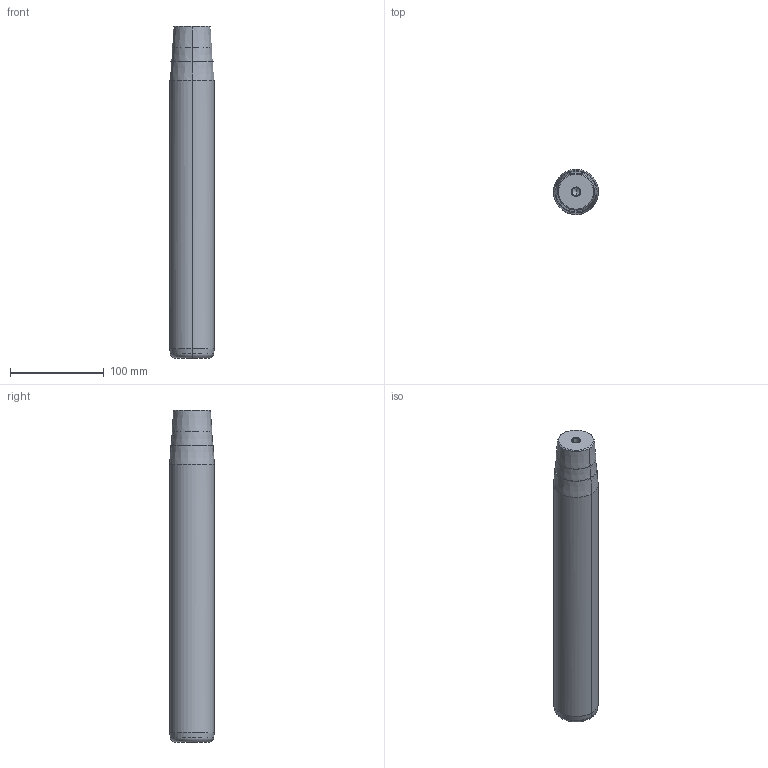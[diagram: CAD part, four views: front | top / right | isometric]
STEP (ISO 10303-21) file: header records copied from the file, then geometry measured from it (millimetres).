
FILE_DESCRIPTION(('CATIA V5 STEP Exchange'),'2;1');
FILE_NAME('C:\Users\Utente\Desktop\IO LAVORO\3D X SITO CF\X SITO\722\722-48x315x355.stp','2021-01-08T14:59:57+00:00',('none'),('none'),'CATIA Version 5 Release 20 GA (IN-10)','CATIA V5 STEP AP203','none');
FILE_SCHEMA(('CONFIG_CONTROL_DESIGN'));
Length unit declared in the file: millimetre
Products named in the file (1): 722-48x315x355
Bounding box: 48 x 48 x 355 mm (x, y, z)
Volume: 619565 mm3; surface area: 56667.5 mm2
Topology: 1 solids, 1 shells, 32 faces, 98 edges, 66 vertices
Faces by surface type: cone 22, cylinder 6, plane 2, torus 2
Entity records: 1166 total; most frequent: CARTESIAN_POINT 279, ORIENTED_EDGE 188, DIRECTION 148, EDGE_CURVE 94, AXIS2_PLACEMENT_3D 89, VERTEX_POINT 66, CIRCLE 56, EDGE_LOOP 34
